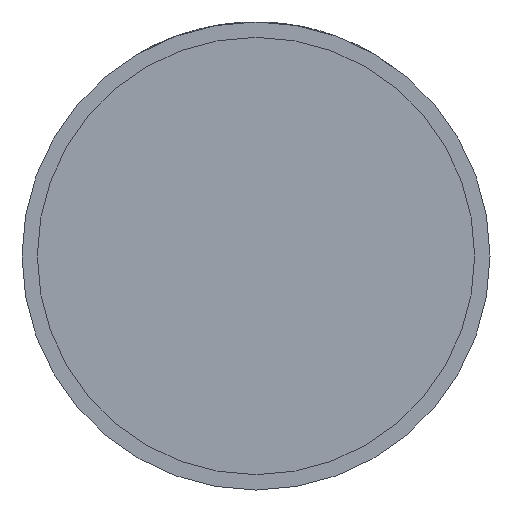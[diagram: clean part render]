
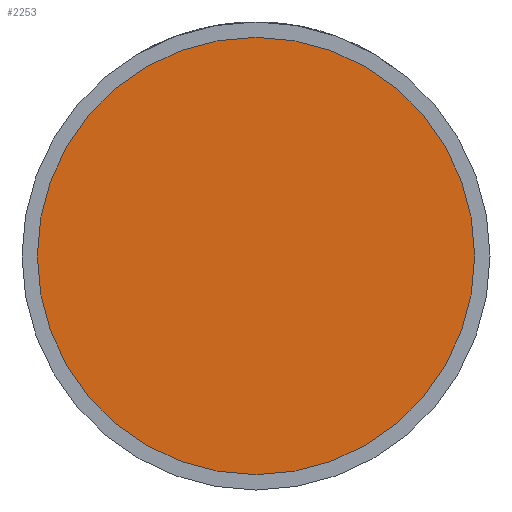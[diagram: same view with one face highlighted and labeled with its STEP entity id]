
A CAD part, front view. The second image highlights one B-rep face of the part: STEP entity #2253.
In plain terms, the highlighted planar face has unit normal (0, -1, 0).
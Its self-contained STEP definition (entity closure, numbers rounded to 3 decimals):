
#73 = DIRECTION ( 'NONE',  ( 0., -1., 0. ) ) ;
#251 = DIRECTION ( 'NONE',  ( 1., 0., 0. ) ) ;
#660 = VERTEX_POINT ( 'NONE', #1936 ) ;
#1068 = EDGE_LOOP ( 'NONE', ( #1169, #2972 ) ) ;
#1110 = CARTESIAN_POINT ( 'NONE',  ( 0., -17.5, 0. ) ) ;
#1169 = ORIENTED_EDGE ( 'NONE', *, *, #1308, .T. ) ;
#1308 = EDGE_CURVE ( 'NONE', #3603, #660, #4258, .T. ) ;
#1482 = CARTESIAN_POINT ( 'NONE',  ( 0., -17.5, 0. ) ) ;
#1601 = DIRECTION ( 'NONE',  ( 0., -1., 0. ) ) ;
#1837 = AXIS2_PLACEMENT_3D ( 'NONE', #1482, #73, #3743 ) ;
#1936 = CARTESIAN_POINT ( 'NONE',  ( -28.5, -17.5, 0. ) ) ;
#2055 = AXIS2_PLACEMENT_3D ( 'NONE', #1110, #4049, #2706 ) ;
#2253 = ADVANCED_FACE ( 'NONE', ( #2944 ), #4265, .T. ) ;
#2526 = CARTESIAN_POINT ( 'NONE',  ( 28.5, -17.5, 0. ) ) ;
#2543 = AXIS2_PLACEMENT_3D ( 'NONE', #4242, #1601, #251 ) ;
#2706 = DIRECTION ( 'NONE',  ( 1., 0., 0. ) ) ;
#2944 = FACE_OUTER_BOUND ( 'NONE', #1068, .T. ) ;
#2972 = ORIENTED_EDGE ( 'NONE', *, *, #3211, .T. ) ;
#3211 = EDGE_CURVE ( 'NONE', #660, #3603, #3310, .T. ) ;
#3310 = CIRCLE ( 'NONE', #2055, 28.5 ) ;
#3603 = VERTEX_POINT ( 'NONE', #2526 ) ;
#3743 = DIRECTION ( 'NONE',  ( 1., 0., 0. ) ) ;
#4049 = DIRECTION ( 'NONE',  ( 0., -1., 0. ) ) ;
#4242 = CARTESIAN_POINT ( 'NONE',  ( 28.5, -17.5, 0. ) ) ;
#4258 = CIRCLE ( 'NONE', #1837, 28.5 ) ;
#4265 = PLANE ( 'NONE',  #2543 ) ;
